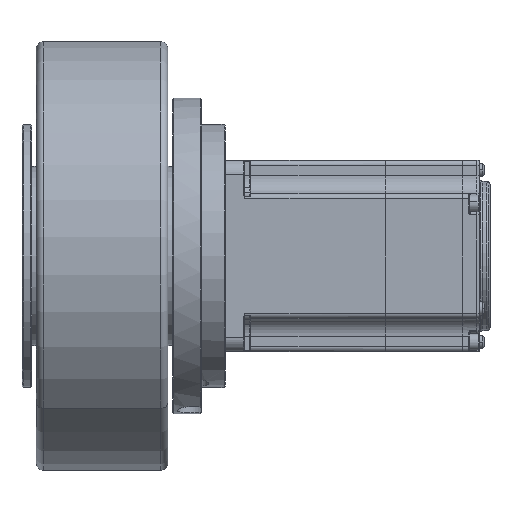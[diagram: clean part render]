
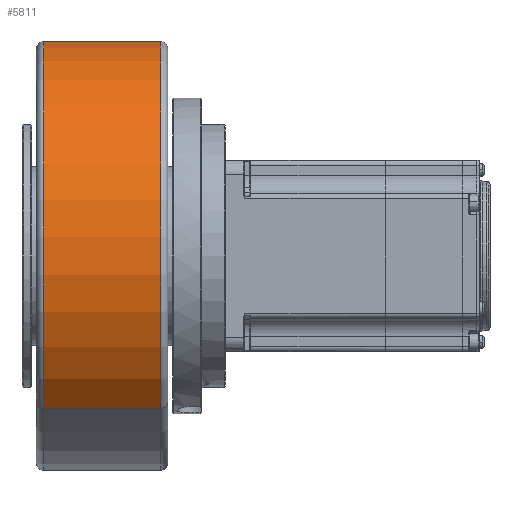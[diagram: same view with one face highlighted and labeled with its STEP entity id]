
A CAD part, front view. The second image highlights one B-rep face of the part: STEP entity #5811.
In plain terms, the highlighted cylindrical face has radius 90 mm (diameter 180 mm), a partial arc.
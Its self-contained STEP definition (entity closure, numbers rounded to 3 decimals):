
#2923=DIRECTION('',(-1.,0.,0.));
#2924=VECTOR('',#2923,49.);
#2925=CARTESIAN_POINT('',(52.,0.,90.));
#2926=LINE('',#2925,#2924);
#2962=CARTESIAN_POINT('',(52.,0.,0.));
#2963=DIRECTION('',(-1.,0.,0.));
#2964=DIRECTION('',(0.,0.,-1.));
#2965=AXIS2_PLACEMENT_3D('',#2962,#2963,#2964);
#2967=DIRECTION('',(-1.,0.,0.));
#2968=VECTOR('',#2967,49.);
#2969=CARTESIAN_POINT('',(52.,0.,-90.));
#2970=LINE('',#2969,#2968);
#2976=CARTESIAN_POINT('',(3.,0.,0.));
#2977=DIRECTION('',(1.,0.,0.));
#2978=DIRECTION('',(0.,0.,1.));
#2979=AXIS2_PLACEMENT_3D('',#2976,#2977,#2978);
#4788=CARTESIAN_POINT('',(3.,0.,-90.));
#4789=CARTESIAN_POINT('',(3.,0.,90.));
#4790=VERTEX_POINT('',#4788);
#4791=VERTEX_POINT('',#4789);
#4792=CARTESIAN_POINT('',(52.,0.,90.));
#4793=CARTESIAN_POINT('',(52.,0.,-90.));
#4794=VERTEX_POINT('',#4792);
#4795=VERTEX_POINT('',#4793);
#5799=CARTESIAN_POINT('',(0.,0.,0.));
#5800=DIRECTION('',(-1.,0.,0.));
#5801=DIRECTION('',(0.,0.,1.));
#5802=AXIS2_PLACEMENT_3D('',#5799,#5800,#5801);
#5803=CYLINDRICAL_SURFACE('',#5802,90.);
#5804=ORIENTED_EDGE('',*,*,#5749,.T.);
#5806=ORIENTED_EDGE('',*,*,#5805,.F.);
#5807=ORIENTED_EDGE('',*,*,#5746,.F.);
#5808=ORIENTED_EDGE('',*,*,#5792,.F.);
#5809=EDGE_LOOP('',(#5804,#5806,#5807,#5808));
#5810=FACE_OUTER_BOUND('',#5809,.F.);
#5811=ADVANCED_FACE('',(#5810),#5803,.T.);
#2966=CIRCLE('',#2965,90.);
#2980=CIRCLE('',#2979,90.);
#5746=EDGE_CURVE('',#4794,#4791,#2926,.T.);
#5749=EDGE_CURVE('',#4795,#4790,#2970,.T.);
#5792=EDGE_CURVE('',#4795,#4794,#2966,.T.);
#5805=EDGE_CURVE('',#4791,#4790,#2980,.T.);
